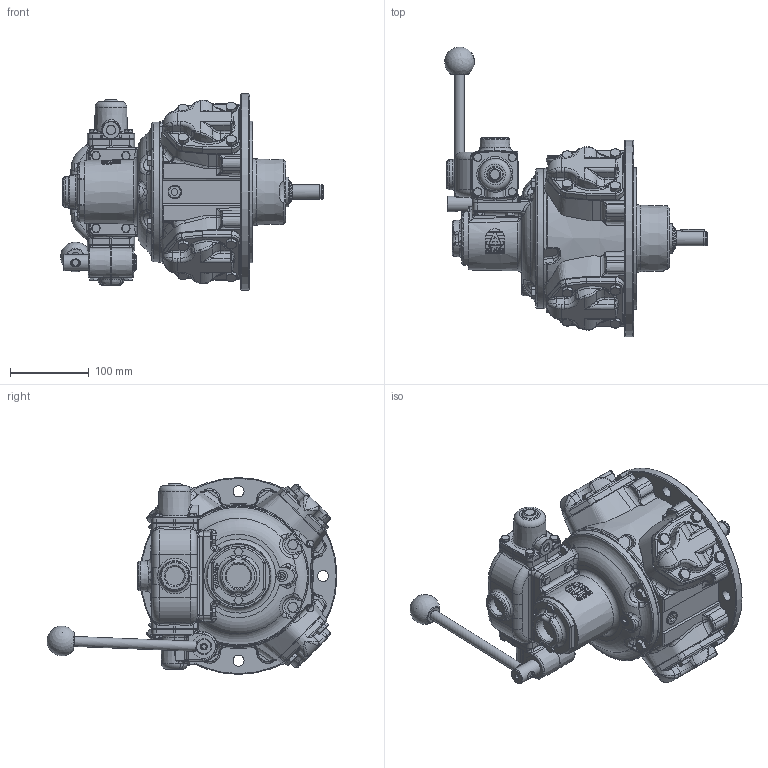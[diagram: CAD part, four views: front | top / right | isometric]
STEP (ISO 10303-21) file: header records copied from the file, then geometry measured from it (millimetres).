
FILE_DESCRIPTION (( 'STEP AP214' ), '1' );
FILE_NAME ('RM210+HCV210 Defeature + Logo.STEP', '2023-05-17T13:35:06', ( '' ), ( '' ), 'SwSTEP 2.0', 'SolidWorks 2022', '' );
FILE_SCHEMA (( 'AUTOMOTIVE_DESIGN' ));
Length unit declared in the file: millimetre
Products named in the file (1): RM210+HCV210 Defeature + Logo
Bounding box: 333.7 x 368.22 x 250 mm (x, y, z)
Volume: 6713752.4 mm3; surface area: 338568.7 mm2
Topology: 1 solids, 1 shells, 2934 faces, 7282 edges, 4405 vertices
Faces by surface type: plane 1203, bspline 659, cylinder 464, cone 397, torus 196, sphere 15
Full cylindrical faces by diameter (mm): 1.9 x2, 2 x3, 6.8 x1, 8 x1, 8.566 x3, 8.7 x1, 9.728 x1, 10 x17, 11.7 x1, 11.9 x4, 12.7 x1, 13 x17, 14 x5, 16 x8, 16.9 x1, 17 x8, 19 x1, 19.003 x1, 20 x2, 21.5 x3, 24.117 x2, 26.97 x1, 30 x2, 30.5 x1, 38.1 x1, 55.3 x1, 177.8 x1, 179.97 x1, 250 x1
Entity records: 177193 total; most frequent: CARTESIAN_POINT 83159, ORIENTED_EDGE 13922, DIRECTION 10989, EDGE_CURVE 6961, VERTEX_POINT 4321, AXIS2_PLACEMENT_3D 4198, EDGE_LOOP 3238, FACE_OUTER_BOUND 3039
